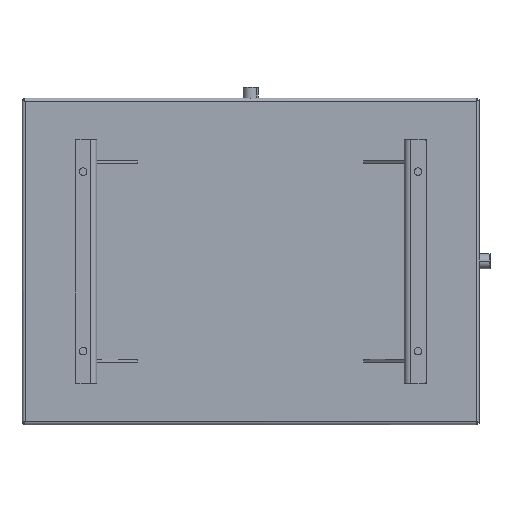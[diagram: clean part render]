
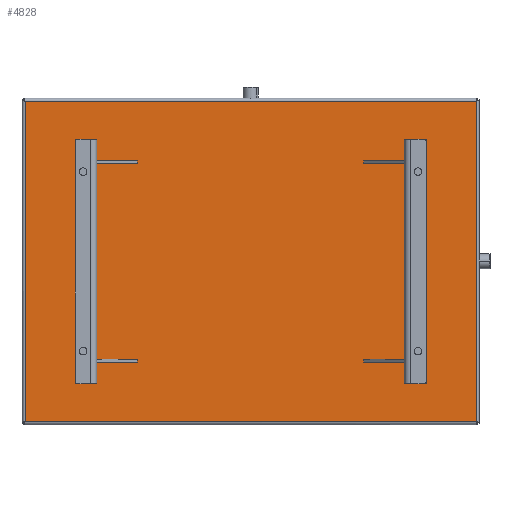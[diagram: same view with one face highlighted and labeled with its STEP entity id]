
A CAD part, front view. The second image highlights one B-rep face of the part: STEP entity #4828.
In plain terms, the highlighted planar face has unit normal (0, -1, 0).
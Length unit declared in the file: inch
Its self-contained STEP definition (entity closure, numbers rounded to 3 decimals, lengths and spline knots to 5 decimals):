
#238 = DIRECTION ( 'NONE',  ( 0., -1., 0. ) ) ;
#1481 = LINE ( 'NONE', #6452, #5535 ) ;
#1509 = CARTESIAN_POINT ( 'NONE',  ( 13.8329, 2.50474, 12.80334 ) ) ;
#1878 = VECTOR ( 'NONE', #2844, 39.37008 ) ;
#1963 = VERTEX_POINT ( 'NONE', #2664 ) ;
#2159 = CARTESIAN_POINT ( 'NONE',  ( -27.73555, 2.50474, -16.64346 ) ) ;
#2275 = DIRECTION ( 'NONE',  ( -1., 0., 0. ) ) ;
#2356 = CARTESIAN_POINT ( 'NONE',  ( 13.71125, 2.50474, -16.64346 ) ) ;
#2664 = CARTESIAN_POINT ( 'NONE',  ( -27.73555, 2.50474, 12.80334 ) ) ;
#2844 = DIRECTION ( 'NONE',  ( 1., 0., 0. ) ) ;
#3177 = LINE ( 'NONE', #1509, #4997 ) ;
#3248 = PLANE ( 'NONE',  #4193 ) ;
#3738 = EDGE_CURVE ( 'NONE', #6483, #8147, #8828, .T. ) ;
#3979 = CARTESIAN_POINT ( 'NONE',  ( 13.71125, 2.50474, -16.7651 ) ) ;
#4193 = AXIS2_PLACEMENT_3D ( 'NONE', #4630, #238, #5344 ) ;
#4265 = LINE ( 'NONE', #6988, #1878 ) ;
#4616 = CARTESIAN_POINT ( 'NONE',  ( 13.71125, 2.50474, 12.80334 ) ) ;
#4630 = CARTESIAN_POINT ( 'NONE',  ( -28.01215, 2.50474, -16.92006 ) ) ;
#4645 = EDGE_CURVE ( 'NONE', #1963, #8580, #1481, .T. ) ;
#4828 = ADVANCED_FACE ( 'NONE', ( #7642 ), #3248, .T. ) ;
#4858 = ORIENTED_EDGE ( 'NONE', *, *, #8727, .T. ) ;
#4997 = VECTOR ( 'NONE', #2275, 39.37008 ) ;
#5083 = ORIENTED_EDGE ( 'NONE', *, *, #4645, .T. ) ;
#5171 = EDGE_CURVE ( 'NONE', #8580, #6483, #4265, .T. ) ;
#5344 = DIRECTION ( 'NONE',  ( 0., 0., -1. ) ) ;
#5535 = VECTOR ( 'NONE', #7156, 39.37008 ) ;
#6452 = CARTESIAN_POINT ( 'NONE',  ( -27.73555, 2.50474, 12.92499 ) ) ;
#6483 = VERTEX_POINT ( 'NONE', #2356 ) ;
#6771 = DIRECTION ( 'NONE',  ( 0., 0., 1. ) ) ;
#6933 = VECTOR ( 'NONE', #6771, 39.37008 ) ;
#6988 = CARTESIAN_POINT ( 'NONE',  ( -27.85719, 2.50474, -16.64346 ) ) ;
#7010 = ORIENTED_EDGE ( 'NONE', *, *, #5171, .T. ) ;
#7156 = DIRECTION ( 'NONE',  ( 0., 0., -1. ) ) ;
#7642 = FACE_OUTER_BOUND ( 'NONE', #8343, .T. ) ;
#8132 = ORIENTED_EDGE ( 'NONE', *, *, #3738, .T. ) ;
#8147 = VERTEX_POINT ( 'NONE', #4616 ) ;
#8343 = EDGE_LOOP ( 'NONE', ( #8132, #4858, #5083, #7010 ) ) ;
#8580 = VERTEX_POINT ( 'NONE', #2159 ) ;
#8727 = EDGE_CURVE ( 'NONE', #8147, #1963, #3177, .T. ) ;
#8828 = LINE ( 'NONE', #3979, #6933 ) ;
